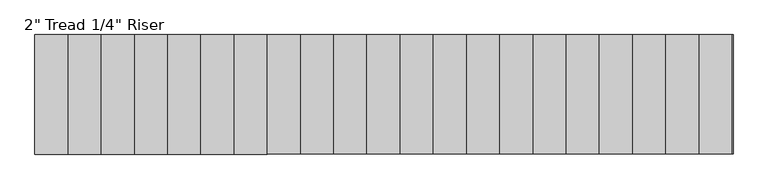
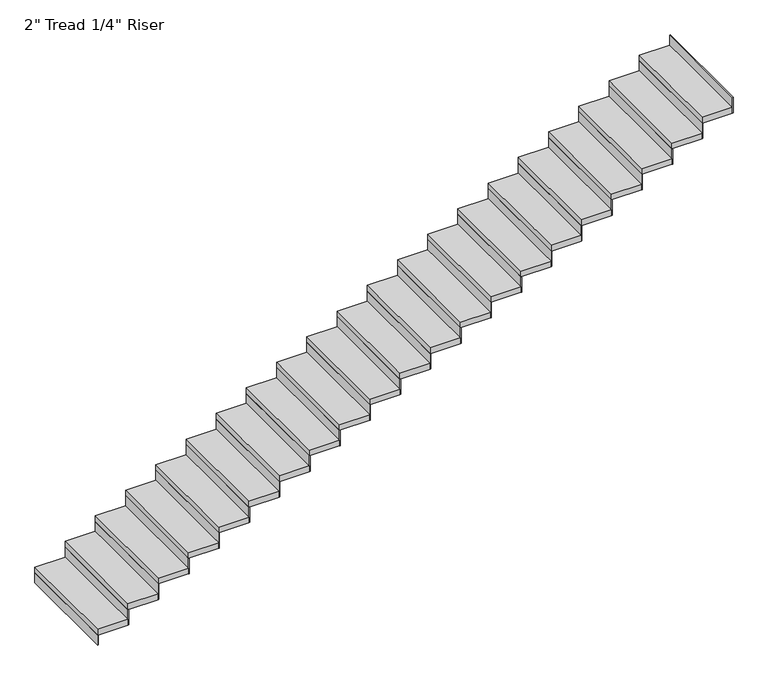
"""IFC4 building model written with IfcOpenShell, lengths in millimetres: stair flight geometry."""

import ifcopenshell
import ifcopenshell.guid

model = None  # the IFC model being written
_history = None  # IfcOwnerHistory: only IFC2X3 demands one
_inside = {}  # id of a spatial element -> (the spatial element, [elements in it])
_under = {}  # id of a project, library or spatial element -> (it, [spatial elements below it])
_declared = {}  # id of a project -> (the project, [libraries it declares])
_typed = {}  # id of a type object -> (the type object, [elements of that type])
_made_of = {}  # id of a material, layer set ... -> (it, [elements and type objects made of it])


def new_model(schema):
    """Start an empty IFC model of exactly this schema.

    Asked for "IFC4X3", IfcOpenShell would pick the latest addendum, in which some entities
    have other attributes; the version numbers below select the first issue.
    IFC2X3 requires an IfcOwnerHistory on every rooted entity: one is made here for all.
    """
    global model, _history
    if schema == "IFC4X3":
        model = ifcopenshell.file(schema_version=(4, 3, 0, 0))
    else:
        model = ifcopenshell.file(schema=schema)
    _inside.clear()
    _under.clear()
    _declared.clear()
    _typed.clear()
    _made_of.clear()
    _history = None
    if model.schema == "IFC2X3":
        org = make("IfcOrganization", Name="unknown")
        user = make(
            "IfcPersonAndOrganization",
            ThePerson=make("IfcPerson", FamilyName="unknown"),
            TheOrganization=org,
        )
        app = make(
            "IfcApplication",
            ApplicationDeveloper=org,
            Version="unknown",
            ApplicationFullName="unknown",
            ApplicationIdentifier="unknown",
        )
        _history = make(
            "IfcOwnerHistory",
            OwningUser=user,
            OwningApplication=app,
            ChangeAction="ADDED",
            CreationDate=0,
        )
    return model


def make(cls, **values):
    """One entity of the class cls with the attributes given. An attribute that is None is left unset."""
    return model.create_entity(
        cls, **{name: value for name, value in values.items() if value is not None}
    )


def rooted(cls, **values):
    """An entity with a GlobalId (a new one), such as an element, a storey or a relation."""
    return make(cls, GlobalId=ifcopenshell.guid.new(), OwnerHistory=_history, **values)


def si_unit(unit_type, name, prefix=None):
    """IfcSIUnit, for example si_unit("LENGTHUNIT", "METRE", prefix="MILLI")."""
    return make("IfcSIUnit", UnitType=unit_type, Prefix=prefix, Name=name)


def assignment(units):
    """IfcUnitAssignment: the units of a project."""
    return None if units is None else make("IfcUnitAssignment", Units=units)


def point(xyz):
    """IfcCartesianPoint."""
    return None if xyz is None else make("IfcCartesianPoint", Coordinates=xyz)


def direction(xyz):
    """IfcDirection."""
    return None if xyz is None else make("IfcDirection", DirectionRatios=xyz)


def frame(location, z_axis=None, x_axis=None):
    """IfcAxis2Placement3D, a coordinate frame: its origin and axes. An axis left out is left unset."""
    return make(
        "IfcAxis2Placement3D",
        Location=point(location),
        Axis=direction(z_axis),
        RefDirection=direction(x_axis),
    )


def origin():
    """The frame at (0, 0, 0) with its axes left unset."""
    return frame((0.0, 0.0, 0.0))


def origin_with_axes():
    """The frame at (0, 0, 0) with the z axis (0, 0, 1) and the x axis (1, 0, 0) written out."""
    return frame((0.0, 0.0, 0.0), z_axis=(0.0, 0.0, 1.0), x_axis=(1.0, 0.0, 0.0))


def place(relative_to, where):
    """IfcLocalPlacement: puts the frame where relative to a parent placement (None: the world)."""
    return make(
        "IfcLocalPlacement", PlacementRelTo=relative_to, RelativePlacement=where
    )


def context(
    kind, dimensions, precision=None, world=None, true_north=None, identifier=None
):
    """IfcGeometricRepresentationContext, for example the 3D "Model" context."""
    return make(
        "IfcGeometricRepresentationContext",
        ContextIdentifier=identifier,
        ContextType=kind,
        CoordinateSpaceDimension=dimensions,
        Precision=precision,
        WorldCoordinateSystem=world,
        TrueNorth=true_north,
    )


def project(units=None, contexts=None):
    """IfcProject with its units and contexts."""
    return rooted(
        "IfcProject",
        Name="project",
        RepresentationContexts=contexts,
        UnitsInContext=assignment(units),
    )


def spatial(cls, under=None, at=None, **own):
    """A site, building, storey or space (cls), placed at a placement, below another one or the project."""
    s = rooted(cls, ObjectPlacement=at, **own)
    if under is not None:
        _under.setdefault(under.id(), (under, []))[1].append(s)
    return s


def polyline(points):
    """IfcPolyline through the points."""
    return make("IfcPolyline", Points=[point(p) for p in points])


def outline(outer, holes=None, kind="AREA"):
    """IfcArbitraryClosedProfileDef: a profile drawn as a closed curve; with holes, ...WithVoids."""
    if holes is None:
        return make("IfcArbitraryClosedProfileDef", ProfileType=kind, OuterCurve=outer)
    return make(
        "IfcArbitraryProfileDefWithVoids",
        ProfileType=kind,
        OuterCurve=outer,
        InnerCurves=holes,
    )


def extrude(swept, where, along, depth):
    """IfcExtrudedAreaSolid: the profile swept, set in the frame where, extruded along a direction by depth."""
    return make(
        "IfcExtrudedAreaSolid",
        SweptArea=swept,
        Position=where,
        ExtrudedDirection=direction(along),
        Depth=depth,
    )


def shape(context_of_items, identifier, shape_type, items):
    """IfcShapeRepresentation: the items that make up one representation, for example the "Body"."""
    return make(
        "IfcShapeRepresentation",
        ContextOfItems=context_of_items,
        RepresentationIdentifier=identifier,
        RepresentationType=shape_type,
        Items=items,
    )


def source(mapping_origin, context_of_items, identifier, shape_type, items):
    """IfcRepresentationMap: a shape defined once, which mapped items show again and again."""
    return make(
        "IfcRepresentationMap",
        MappingOrigin=mapping_origin,
        MappedRepresentation=shape(context_of_items, identifier, shape_type, items),
    )


def transform(
    local_origin,
    x_axis=None,
    y_axis=None,
    z_axis=None,
    scale=None,
    scale2=None,
    scale3=None,
    uniform=True,
):
    """IfcCartesianTransformationOperator3D, or its non-uniform kind. x_axis, y_axis, z_axis: its Axis1, 2, 3."""
    if uniform:
        return make(
            "IfcCartesianTransformationOperator3D",
            Axis1=direction(x_axis),
            Axis2=direction(y_axis),
            LocalOrigin=point(local_origin),
            Scale=scale,
            Axis3=direction(z_axis),
        )
    return make(
        "IfcCartesianTransformationOperator3DnonUniform",
        Axis1=direction(x_axis),
        Axis2=direction(y_axis),
        LocalOrigin=point(local_origin),
        Scale=scale,
        Axis3=direction(z_axis),
        Scale2=scale2,
        Scale3=scale3,
    )


def mapped(mapping_source, mapping_target):
    """IfcMappedItem: shows the shape of a source again, moved by a transform."""
    return make(
        "IfcMappedItem", MappingSource=mapping_source, MappingTarget=mapping_target
    )


def made_of(thing, what):
    """Note that an element or type object is made of a material, layer set ...; save() writes the relation."""
    if what is not None:
        _made_of.setdefault(what.id(), (what, []))[1].append(thing)
    return thing


def element(
    cls,
    number,
    at=None,
    inside=None,
    cuts=None,
    type_object=None,
    material=None,
    context=None,
    identifier="Body",
    shape_type=None,
    held_by="IfcProductDefinitionShape",
    body=None,
    shapes=None,
    **own,
):
    """One element of the class cls, such as IfcWall. Its Tag is "e" and its number.

    at: its placement. inside: the storey or other place that contains it. cuts: it is an
    opening in that element (IfcRelVoidsElement). A single representation is given by context,
    identifier, shape_type and body (its items); several are given by shapes. held_by: the class
    of the entity that holds the representations. save() writes the other relations.
    """
    e = rooted(cls, Tag="e%d" % number, ObjectPlacement=at, **own)
    if body is not None:
        shapes = [shape(context, identifier, shape_type, body)]
    if shapes is not None:
        e.Representation = make(held_by, Representations=shapes)
    if inside is not None:
        _inside.setdefault(inside.id(), (inside, []))[1].append(e)
    if cuts is not None:
        rooted(
            "IfcRelVoidsElement", RelatingBuildingElement=cuts, RelatedOpeningElement=e
        )
    if type_object is not None:
        _typed.setdefault(type_object.id(), (type_object, []))[1].append(e)
    return made_of(e, material)


def aggregate(whole, parts):
    """IfcRelAggregates: a whole, such as a stair, and the parts it consists of."""
    return rooted("IfcRelAggregates", RelatingObject=whole, RelatedObjects=parts)


def save(model, path):
    """Write the relations noted so far, then the file.

    IfcRelAggregates (storeys below a building ...), IfcRelContainedInSpatialStructure (elements
    in a storey), IfcRelDefinesByType, IfcRelAssociatesMaterial and IfcRelDeclares: one each for
    every whole, place, type object, material and project.
    """
    for whole, parts in _under.values():
        aggregate(whole, parts)
    for where, things in _inside.values():
        rooted(
            "IfcRelContainedInSpatialStructure",
            RelatedElements=things,
            RelatingStructure=where,
        )
    for kind, things in _typed.values():
        rooted("IfcRelDefinesByType", RelatedObjects=things, RelatingType=kind)
    for what, things in _made_of.values():
        rooted("IfcRelAssociatesMaterial", RelatedObjects=things, RelatingMaterial=what)
    for by, libraries in _declared.values():
        rooted("IfcRelDeclares", RelatingContext=by, RelatedDefinitions=libraries)
    model.write(path)


def stair_flight_f96d4b74(model_context):
    return source(origin(), model_context, "Body", "SweptSolid", [
        extrude(outline(polyline([(47030.499343, 6677.964969), (47024.149343, 6677.964969), (47024.149343, 7592.364969), (47030.499343, 7592.364969), (47030.499343, 6677.964969)])), origin_with_axes(), (0.0, 0.0, 1.0), 87.7454545),
        extrude(outline(polyline([(47278.149343, 7592.364969), (47278.149343, 6677.964969), (47024.149343, 6677.964969), (47024.149343, 7592.364969), (47278.149343, 7592.364969)])), frame((0.0, 0.0, 87.7454545), z_axis=(0.0, 0.0, 1.0), x_axis=(1.0, 0.0, 0.0)), (0.0, 0.0, 1.0), 50.8),
        extrude(outline(polyline([(47284.499343, 6677.964969), (47278.149343, 6677.964969), (47278.149343, 7592.364969), (47284.499343, 7592.364969), (47284.499343, 6677.964969)])), frame((0.0, 0.0, 87.7454545), z_axis=(0.0, 0.0, 1.0), x_axis=(1.0, 0.0, 0.0)), (0.0, 0.0, 1.0), 138.5454545),
        extrude(outline(polyline([(47532.149343, 7592.364969), (47532.149343, 6677.964969), (47278.149343, 6677.964969), (47278.149343, 7592.364969), (47532.149343, 7592.364969)])), frame((0.0, 0.0, 226.2909091), z_axis=(0.0, 0.0, 1.0), x_axis=(1.0, 0.0, 0.0)), (0.0, 0.0, 1.0), 50.8),
        extrude(outline(polyline([(47538.499343, 6677.964969), (47532.149343, 6677.964969), (47532.149343, 7592.364969), (47538.499343, 7592.364969), (47538.499343, 6677.964969)])), frame((0.0, 0.0, 226.2909091), z_axis=(0.0, 0.0, 1.0), x_axis=(1.0, 0.0, 0.0)), (0.0, 0.0, 1.0), 138.5454545),
        extrude(outline(polyline([(47786.149343, 7592.364969), (47786.149343, 6677.964969), (47532.149343, 6677.964969), (47532.149343, 7592.364969), (47786.149343, 7592.364969)])), frame((0.0, 0.0, 364.8363636), z_axis=(0.0, 0.0, 1.0), x_axis=(1.0, 0.0, 0.0)), (0.0, 0.0, 1.0), 50.8),
        extrude(outline(polyline([(47792.499343, 6677.964969), (47786.149343, 6677.964969), (47786.149343, 7592.364969), (47792.499343, 7592.364969), (47792.499343, 6677.964969)])), frame((0.0, 0.0, 364.8363636), z_axis=(0.0, 0.0, 1.0), x_axis=(1.0, 0.0, 0.0)), (0.0, 0.0, 1.0), 138.5454545),
        extrude(outline(polyline([(48040.149343, 7592.364969), (48040.149343, 6677.964969), (47786.149343, 6677.964969), (47786.149343, 7592.364969), (48040.149343, 7592.364969)])), frame((0.0, 0.0, 503.3818182), z_axis=(0.0, 0.0, 1.0), x_axis=(1.0, 0.0, 0.0)), (0.0, 0.0, 1.0), 50.8),
        extrude(outline(polyline([(48046.499343, 6677.964969), (48040.149343, 6677.964969), (48040.149343, 7592.364969), (48046.499343, 7592.364969), (48046.499343, 6677.964969)])), frame((0.0, 0.0, 503.3818182), z_axis=(0.0, 0.0, 1.0), x_axis=(1.0, 0.0, 0.0)), (0.0, 0.0, 1.0), 138.5454545),
        extrude(outline(polyline([(48294.149343, 7592.364969), (48294.149343, 6677.964969), (48040.149343, 6677.964969), (48040.149343, 7592.364969), (48294.149343, 7592.364969)])), frame((0.0, 0.0, 641.9272727), z_axis=(0.0, 0.0, 1.0), x_axis=(1.0, 0.0, 0.0)), (0.0, 0.0, 1.0), 50.8),
        extrude(outline(polyline([(48300.499343, 6677.964969), (48294.149343, 6677.964969), (48294.149343, 7592.364969), (48300.499343, 7592.364969), (48300.499343, 6677.964969)])), frame((0.0, 0.0, 641.9272727), z_axis=(0.0, 0.0, 1.0), x_axis=(1.0, 0.0, 0.0)), (0.0, 0.0, 1.0), 138.5454545),
        extrude(outline(polyline([(48548.149343, 7592.364969), (48548.149343, 6677.964969), (48294.149343, 6677.964969), (48294.149343, 7592.364969), (48548.149343, 7592.364969)])), frame((0.0, 0.0, 780.4727273), z_axis=(0.0, 0.0, 1.0), x_axis=(1.0, 0.0, 0.0)), (0.0, 0.0, 1.0), 50.8),
        extrude(outline(polyline([(48554.499343, 6677.964969), (48548.149343, 6677.964969), (48548.149343, 7592.364969), (48554.499343, 7592.364969), (48554.499343, 6677.964969)])), frame((0.0, 0.0, 780.4727273), z_axis=(0.0, 0.0, 1.0), x_axis=(1.0, 0.0, 0.0)), (0.0, 0.0, 1.0), 138.5454545),
        extrude(outline(polyline([(48802.149343, 7592.364969), (48802.149343, 6677.964969), (48548.149343, 6677.964969), (48548.149343, 7592.364969), (48802.149343, 7592.364969)])), frame((0.0, 0.0, 919.0181818), z_axis=(0.0, 0.0, 1.0), x_axis=(1.0, 0.0, 0.0)), (0.0, 0.0, 1.0), 50.8),
        extrude(outline(polyline([(48808.499343, 6677.964969), (48802.149343, 6677.964969), (48802.149343, 7592.364969), (48808.499343, 7592.364969), (48808.499343, 6677.964969)])), frame((0.0, 0.0, 919.0181818), z_axis=(0.0, 0.0, 1.0), x_axis=(1.0, 0.0, 0.0)), (0.0, 0.0, 1.0), 138.5454545),
        extrude(outline(polyline([(49056.149343, 7592.364969), (49056.149343, 6677.964969), (48802.149343, 6677.964969), (48802.149343, 7592.364969), (49056.149343, 7592.364969)])), frame((0.0, 0.0, 1057.5636364), z_axis=(0.0, 0.0, 1.0), x_axis=(1.0, 0.0, 0.0)), (0.0, 0.0, 1.0), 50.8),
        extrude(outline(polyline([(49062.499343, 6677.964969), (49056.149343, 6677.964969), (49056.149343, 7592.364969), (49062.499343, 7592.364969), (49062.499343, 6677.964969)])), frame((0.0, 0.0, 1057.5636364), z_axis=(0.0, 0.0, 1.0), x_axis=(1.0, 0.0, 0.0)), (0.0, 0.0, 1.0), 138.5454545),
        extrude(outline(polyline([(49310.149343, 7592.364969), (49310.149343, 6677.964969), (49056.149343, 6677.964969), (49056.149343, 7592.364969), (49310.149343, 7592.364969)])), frame((0.0, 0.0, 1196.1090909), z_axis=(0.0, 0.0, 1.0), x_axis=(1.0, 0.0, 0.0)), (0.0, 0.0, 1.0), 50.8),
        extrude(outline(polyline([(49316.499343, 6677.964969), (49310.149343, 6677.964969), (49310.149343, 7592.364969), (49316.499343, 7592.364969), (49316.499343, 6677.964969)])), frame((0.0, 0.0, 1196.1090909), z_axis=(0.0, 0.0, 1.0), x_axis=(1.0, 0.0, 0.0)), (0.0, 0.0, 1.0), 138.5454545),
        extrude(outline(polyline([(49564.149343, 7592.364969), (49564.149343, 6677.964969), (49310.149343, 6677.964969), (49310.149343, 7592.364969), (49564.149343, 7592.364969)])), frame((0.0, 0.0, 1334.6545455), z_axis=(0.0, 0.0, 1.0), x_axis=(1.0, 0.0, 0.0)), (0.0, 0.0, 1.0), 50.8),
        extrude(outline(polyline([(49570.499343, 6677.964969), (49564.149343, 6677.964969), (49564.149343, 7592.364969), (49570.499343, 7592.364969), (49570.499343, 6677.964969)])), frame((0.0, 0.0, 1334.6545455), z_axis=(0.0, 0.0, 1.0), x_axis=(1.0, 0.0, 0.0)), (0.0, 0.0, 1.0), 138.5454545),
        extrude(outline(polyline([(49818.149343, 7592.364969), (49818.149343, 6677.964969), (49564.149343, 6677.964969), (49564.149343, 7592.364969), (49818.149343, 7592.364969)])), frame((0.0, 0.0, 1473.2), z_axis=(0.0, 0.0, 1.0), x_axis=(1.0, 0.0, 0.0)), (0.0, 0.0, 1.0), 50.8),
        extrude(outline(polyline([(49824.499343, 6677.964969), (49818.149343, 6677.964969), (49818.149343, 7592.364969), (49824.499343, 7592.364969), (49824.499343, 6677.964969)])), frame((0.0, 0.0, 1473.2), z_axis=(0.0, 0.0, 1.0), x_axis=(1.0, 0.0, 0.0)), (0.0, 0.0, 1.0), 138.5454545),
        extrude(outline(polyline([(50072.149343, 7592.364969), (50072.149343, 6677.964969), (49818.149343, 6677.964969), (49818.149343, 7592.364969), (50072.149343, 7592.364969)])), frame((0.0, 0.0, 1611.7454545), z_axis=(0.0, 0.0, 1.0), x_axis=(1.0, 0.0, 0.0)), (0.0, 0.0, 1.0), 50.8),
        extrude(outline(polyline([(50078.499343, 6677.964969), (50072.149343, 6677.964969), (50072.149343, 7592.364969), (50078.499343, 7592.364969), (50078.499343, 6677.964969)])), frame((0.0, 0.0, 1611.7454545), z_axis=(0.0, 0.0, 1.0), x_axis=(1.0, 0.0, 0.0)), (0.0, 0.0, 1.0), 138.5454545),
        extrude(outline(polyline([(50326.149343, 7592.364969), (50326.149343, 6677.964969), (50072.149343, 6677.964969), (50072.149343, 7592.364969), (50326.149343, 7592.364969)])), frame((0.0, 0.0, 1750.2909091), z_axis=(0.0, 0.0, 1.0), x_axis=(1.0, 0.0, 0.0)), (0.0, 0.0, 1.0), 50.8),
        extrude(outline(polyline([(50332.499343, 6677.964969), (50326.149343, 6677.964969), (50326.149343, 7592.364969), (50332.499343, 7592.364969), (50332.499343, 6677.964969)])), frame((0.0, 0.0, 1750.2909091), z_axis=(0.0, 0.0, 1.0), x_axis=(1.0, 0.0, 0.0)), (0.0, 0.0, 1.0), 138.5454545),
        extrude(outline(polyline([(50580.149343, 7592.364969), (50580.149343, 6677.964969), (50326.149343, 6677.964969), (50326.149343, 7592.364969), (50580.149343, 7592.364969)])), frame((0.0, 0.0, 1888.8363636), z_axis=(0.0, 0.0, 1.0), x_axis=(1.0, 0.0, 0.0)), (0.0, 0.0, 1.0), 50.8),
        extrude(outline(polyline([(50586.499343, 6677.964969), (50580.149343, 6677.964969), (50580.149343, 7592.364969), (50586.499343, 7592.364969), (50586.499343, 6677.964969)])), frame((0.0, 0.0, 1888.8363636), z_axis=(0.0, 0.0, 1.0), x_axis=(1.0, 0.0, 0.0)), (0.0, 0.0, 1.0), 138.5454545),
        extrude(outline(polyline([(50834.149343, 7592.364969), (50834.149343, 6677.964969), (50580.149343, 6677.964969), (50580.149343, 7592.364969), (50834.149343, 7592.364969)])), frame((0.0, 0.0, 2027.3818182), z_axis=(0.0, 0.0, 1.0), x_axis=(1.0, 0.0, 0.0)), (0.0, 0.0, 1.0), 50.8),
        extrude(outline(polyline([(50840.499343, 6677.964969), (50834.149343, 6677.964969), (50834.149343, 7592.364969), (50840.499343, 7592.364969), (50840.499343, 6677.964969)])), frame((0.0, 0.0, 2027.3818182), z_axis=(0.0, 0.0, 1.0), x_axis=(1.0, 0.0, 0.0)), (0.0, 0.0, 1.0), 138.5454545),
        extrude(outline(polyline([(51088.149343, 7592.364969), (51088.149343, 6677.964969), (50834.149343, 6677.964969), (50834.149343, 7592.364969), (51088.149343, 7592.364969)])), frame((0.0, 0.0, 2165.9272727), z_axis=(0.0, 0.0, 1.0), x_axis=(1.0, 0.0, 0.0)), (0.0, 0.0, 1.0), 50.8),
        extrude(outline(polyline([(51094.499343, 6677.964969), (51088.149343, 6677.964969), (51088.149343, 7592.364969), (51094.499343, 7592.364969), (51094.499343, 6677.964969)])), frame((0.0, 0.0, 2165.9272727), z_axis=(0.0, 0.0, 1.0), x_axis=(1.0, 0.0, 0.0)), (0.0, 0.0, 1.0), 138.5454545),
        extrude(outline(polyline([(51342.149343, 7592.364969), (51342.149343, 6677.964969), (51088.149343, 6677.964969), (51088.149343, 7592.364969), (51342.149343, 7592.364969)])), frame((0.0, 0.0, 2304.4727273), z_axis=(0.0, 0.0, 1.0), x_axis=(1.0, 0.0, 0.0)), (0.0, 0.0, 1.0), 50.8),
        extrude(outline(polyline([(51348.499343, 6677.964969), (51342.149343, 6677.964969), (51342.149343, 7592.364969), (51348.499343, 7592.364969), (51348.499343, 6677.964969)])), frame((0.0, 0.0, 2304.4727273), z_axis=(0.0, 0.0, 1.0), x_axis=(1.0, 0.0, 0.0)), (0.0, 0.0, 1.0), 138.5454545),
        extrude(outline(polyline([(51596.149343, 7592.364969), (51596.149343, 6677.964969), (51342.149343, 6677.964969), (51342.149343, 7592.364969), (51596.149343, 7592.364969)])), frame((0.0, 0.0, 2443.0181818), z_axis=(0.0, 0.0, 1.0), x_axis=(1.0, 0.0, 0.0)), (0.0, 0.0, 1.0), 50.8),
        extrude(outline(polyline([(51602.499343, 6677.964969), (51596.149343, 6677.964969), (51596.149343, 7592.364969), (51602.499343, 7592.364969), (51602.499343, 6677.964969)])), frame((0.0, 0.0, 2443.0181818), z_axis=(0.0, 0.0, 1.0), x_axis=(1.0, 0.0, 0.0)), (0.0, 0.0, 1.0), 138.5454545),
        extrude(outline(polyline([(51850.149343, 7592.364969), (51850.149343, 6677.964969), (51596.149343, 6677.964969), (51596.149343, 7592.364969), (51850.149343, 7592.364969)])), frame((0.0, 0.0, 2581.5636364), z_axis=(0.0, 0.0, 1.0), x_axis=(1.0, 0.0, 0.0)), (0.0, 0.0, 1.0), 50.8),
        extrude(outline(polyline([(51856.499343, 6677.964969), (51850.149343, 6677.964969), (51850.149343, 7592.364969), (51856.499343, 7592.364969), (51856.499343, 6677.964969)])), frame((0.0, 0.0, 2581.5636364), z_axis=(0.0, 0.0, 1.0), x_axis=(1.0, 0.0, 0.0)), (0.0, 0.0, 1.0), 138.5454545),
        extrude(outline(polyline([(52104.149343, 7592.364969), (52104.149343, 6677.964969), (51850.149343, 6677.964969), (51850.149343, 7592.364969), (52104.149343, 7592.364969)])), frame((0.0, 0.0, 2720.1090909), z_axis=(0.0, 0.0, 1.0), x_axis=(1.0, 0.0, 0.0)), (0.0, 0.0, 1.0), 50.8),
        extrude(outline(polyline([(52110.499343, 6677.964969), (52104.149343, 6677.964969), (52104.149343, 7592.364969), (52110.499343, 7592.364969), (52110.499343, 6677.964969)])), frame((0.0, 0.0, 2720.1090909), z_axis=(0.0, 0.0, 1.0), x_axis=(1.0, 0.0, 0.0)), (0.0, 0.0, 1.0), 138.5454545),
        extrude(outline(polyline([(52364.499343, 6677.964969), (52358.149343, 6677.964969), (52358.149343, 7592.364969), (52364.499343, 7592.364969), (52364.499343, 6677.964969)])), frame((0.0, 0.0, 2858.6545455), z_axis=(0.0, 0.0, 1.0), x_axis=(1.0, 0.0, 0.0)), (0.0, 0.0, 1.0), 138.5454545),
        extrude(outline(polyline([(52358.149343, 7592.364969), (52358.149343, 6677.964969), (52104.149343, 6677.964969), (52104.149343, 7592.364969), (52358.149343, 7592.364969)])), frame((0.0, 0.0, 2858.6545455), z_axis=(0.0, 0.0, 1.0), x_axis=(1.0, 0.0, 0.0)), (0.0, 0.0, 1.0), 50.8),
    ])


if __name__ == "__main__":
    model = new_model("IFC4")
    model_context = context("Model", 3, world=origin())
    ifc_project = project(units=[si_unit("LENGTHUNIT", "METRE", prefix="MILLI")], contexts=[model_context])
    site = spatial("IfcSite", under=ifc_project)
    building = spatial("IfcBuilding", under=site)
    placement = place(None, origin())
    stair_flight_shape = stair_flight_f96d4b74(model_context)
    element("IfcStairFlight", 1, ObjectType="2\" Tread 1/4\" Riser", at=placement, inside=building, context=model_context, shape_type="MappedRepresentation", body=[
        mapped(stair_flight_shape, transform((0.0, 0.0, 0.0), x_axis=(1.0, 0.0, 0.0), y_axis=(0.0, 1.0, 0.0), z_axis=(0.0, 0.0, 1.0))),
    ])
    save(model, "model.ifc")
